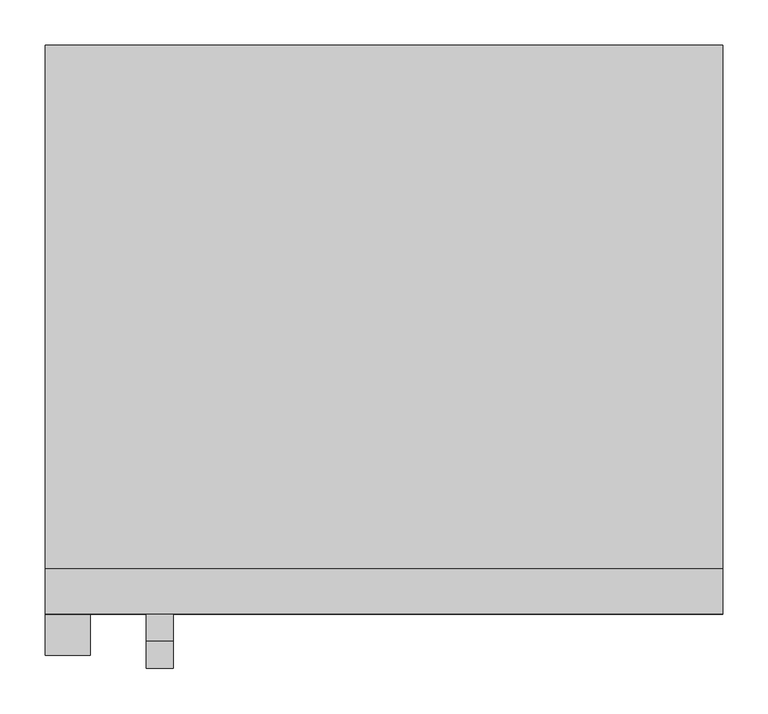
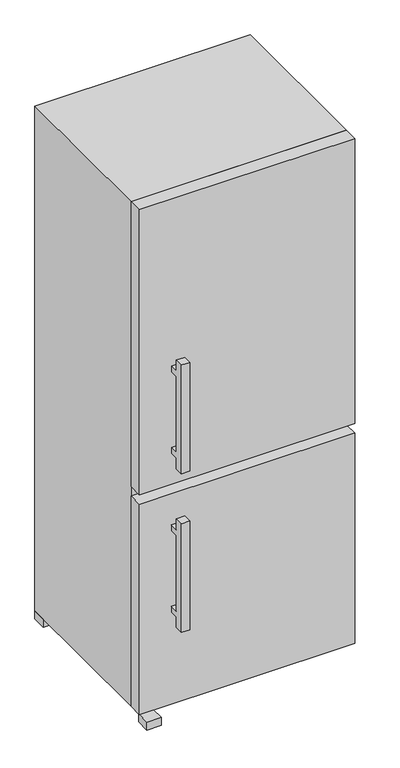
"""IFC4 building model written with IfcOpenShell, lengths in millimetres: proxy geometry, CNef 4315, CNPef 4516 : CNPef 4516."""

from ifc_helpers import new_model, si_unit, frame, origin, place, context, project, spatial, polyline, outline, extrude, source, transform, mapped, element, save


def specialty_equipment_d243509d(model_context):
    return source(origin(), model_context, "Body", "SweptSolid", [
        extrude(outline(polyline([(-689.8345306, -233.1867483), (-659.8345306, -233.1867483), (-659.8345306, -253.1867483), (-689.8345306, -253.1867483), (-689.8345306, -533.1867483), (-659.8345306, -533.1867483), (-659.8345306, -553.1867483), (-689.8345306, -553.1867483), (-689.8345306, -593.1867483), (-719.8345306, -593.1867483), (-719.8345306, -193.1867483), (-689.8345306, -193.1867483), (-689.8345306, -233.1867483)])), frame((-888.4104602, 0.0, 0.0), z_axis=(1.0, 0.0, 0.0), x_axis=(0.0, 1.0, 0.0)), (0.0, 0.0, 1.0), 30.0),
        extrude(outline(polyline([(-250.0, -659.8345306), (-1000.0, -659.8345306), (-1000.0, -609.8345306), (-250.0, -609.8345306), (-250.0, -659.8345306)])), frame((0.0, 0.0, -893.1867483), z_axis=(0.0, 0.0, 1.0), x_axis=(1.0, 0.0, 0.0)), (0.0, 0.0, 1.0), 775.0),
        extrude(outline(polyline([(-250.0, -504.5825981), (-250.0, -554.5825981), (-300.0, -554.5825981), (-300.0, -504.5825981), (-250.0, -504.5825981)])), frame((0.0, 0.0, -923.1867483), z_axis=(0.0, 0.0, 1.0), x_axis=(1.0, 0.0, 0.0)), (0.0, 0.0, 1.0), 30.0),
        extrude(outline(polyline([(-250.0, -29.8345306), (-250.0, -79.8345306), (-300.0, -79.8345306), (-300.0, -29.8345306), (-250.0, -29.8345306)])), frame((0.0, 0.0, -923.1867483), z_axis=(0.0, 0.0, 1.0), x_axis=(1.0, 0.0, 0.0)), (0.0, 0.0, 1.0), 30.0),
        extrude(outline(polyline([(-950.0, -29.8345306), (-950.0, -79.8345306), (-1000.0, -79.8345306), (-1000.0, -29.8345306), (-950.0, -29.8345306)])), frame((0.0, 0.0, -923.1867483), z_axis=(0.0, 0.0, 1.0), x_axis=(1.0, 0.0, 0.0)), (0.0, 0.0, 1.0), 30.0),
        extrude(outline(polyline([(-950.0, -655.0864632), (-950.0, -705.0864632), (-1000.0, -705.0864632), (-1000.0, -655.0864632), (-950.0, -655.0864632)])), frame((0.0, 0.0, -923.1867483), z_axis=(0.0, 0.0, 1.0), x_axis=(1.0, 0.0, 0.0)), (0.0, 0.0, 1.0), 30.0),
        extrude(outline(polyline([(-689.8345306, 351.8132517), (-659.8345306, 351.8132517), (-659.8345306, 331.8132517), (-689.8345306, 331.8132517), (-689.8345306, 51.8132517), (-659.8345306, 51.8132517), (-659.8345306, 31.8132517), (-689.8345306, 31.8132517), (-689.8345306, -8.1867483), (-719.8345306, -8.1867483), (-719.8345306, 391.8132517), (-689.8345306, 391.8132517), (-689.8345306, 351.8132517)])), frame((-888.4104602, 0.0, 0.0), z_axis=(1.0, 0.0, 0.0), x_axis=(0.0, 1.0, 0.0)), (0.0, 0.0, 1.0), 30.0),
        extrude(outline(polyline([(-250.0, -659.8345306), (-1000.0, -659.8345306), (-1000.0, -609.8345306), (-250.0, -609.8345306), (-250.0, -659.8345306)])), frame((0.0, 0.0, -83.1867483), z_axis=(0.0, 0.0, 1.0), x_axis=(1.0, 0.0, 0.0)), (0.0, 0.0, 1.0), 1050.0),
        extrude(outline(polyline([(-250.0, -609.8345306), (-1000.0, -609.8345306), (-1000.0, -29.8345306), (-250.0, -29.8345306), (-250.0, -609.8345306)])), frame((0.0, 0.0, -893.1867483), z_axis=(0.0, 0.0, 1.0), x_axis=(1.0, 0.0, 0.0)), (0.0, 0.0, 1.0), 1860.0),
    ])


if __name__ == "__main__":
    model = new_model("IFC4")
    model_context = context("Model", 3, world=origin())
    ifc_project = project(units=[si_unit("LENGTHUNIT", "METRE", prefix="MILLI")], contexts=[model_context])
    site = spatial("IfcSite", under=ifc_project)
    building = spatial("IfcBuilding", under=site)
    placement = place(None, origin())
    specialty_equipment_shape = specialty_equipment_d243509d(model_context)
    element("IfcBuildingElementProxy", 1, Name="CNef 4315, CNPef 4516 : CNPef 4516", ObjectType="CNef 4315, CNPef 4516 : CNPef 4516", at=placement, inside=building, context=model_context, shape_type="MappedRepresentation", body=[
        mapped(specialty_equipment_shape, transform((0.0, 0.0, 0.0), x_axis=(1.0, 0.0, 0.0), y_axis=(0.0, 1.0, 0.0), z_axis=(0.0, 0.0, 1.0))),
    ])
    save(model, "model.ifc")
